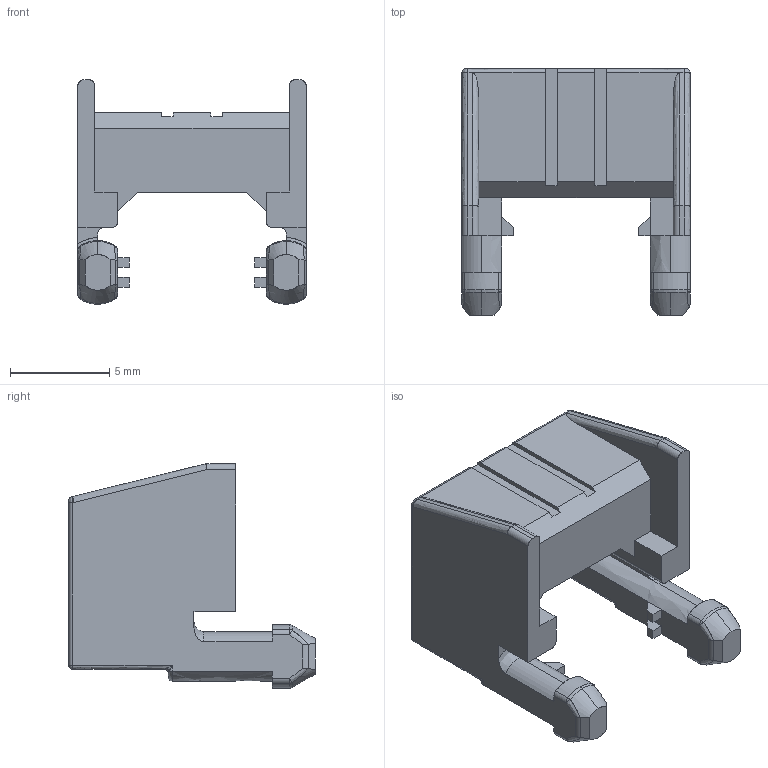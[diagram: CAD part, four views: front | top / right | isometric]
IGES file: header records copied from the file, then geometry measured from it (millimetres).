
Start section: SolidWorks IGES file using analytic representation for surfaces
Global section: file name: C:\Users\08932\Desktop\IGESƒ‚ƒfƒ‹\V0145-91004-01.IGS; native system: SolidWorks 2022; preprocessor: SolidWorks 2022; author: 08932; date: 240710.184953; units: millimetre
Bounding box: 11.5 x 12.4 x 11.3 mm (x, y, z)
Surface area: 647.5 mm2 (no closed solid volume)
Topology: 0 solids, 0 shells, 193 faces, 1234 edges, 1226 vertices
Faces by surface type: bspline 113, revolution 80
